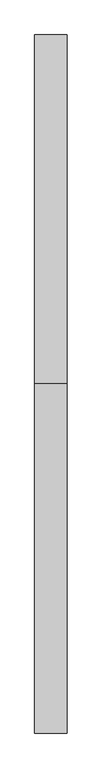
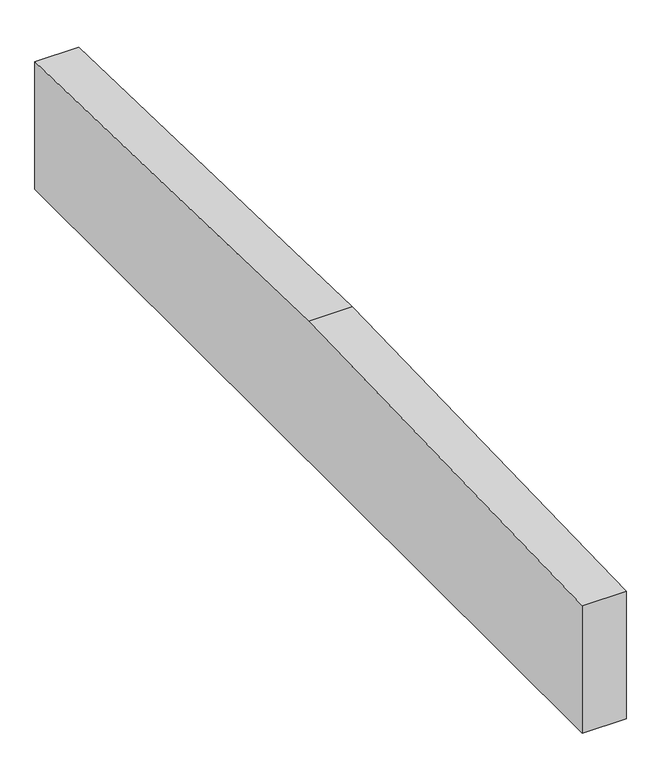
"""IFC4 building model written with IfcOpenShell, lengths in millimetres: proxy geometry, Mur garde grève C1 : Mur garde grève 1."""

from ifc_helpers import new_model, si_unit, frame, origin, place, context, project, spatial, polyline, outline, extrude, source, transform, mapped, element, save


def generic_models_bdcedec3(model_context):
    return source(origin(), model_context, "Body", "SweptSolid", [
        extrude(outline(polyline([(2700.0, 3950.0), (-2700.0, 3950.0), (-2700.0, 4718.0), (0.0, 4793.0), (2700.0, 4718.0), (2700.0, 3950.0)])), frame((6880.0, 0.0, 0.0), z_axis=(1.0, 0.0, 0.0), x_axis=(0.0, 1.0, 0.0)), (0.0, 0.0, 1.0), 250.0),
    ])


if __name__ == "__main__":
    model = new_model("IFC4")
    model_context = context("Model", 3, world=origin())
    ifc_project = project(units=[si_unit("LENGTHUNIT", "METRE", prefix="MILLI")], contexts=[model_context])
    site = spatial("IfcSite", under=ifc_project)
    building = spatial("IfcBuilding", under=site)
    placement = place(None, origin())
    generic_models_shape = generic_models_bdcedec3(model_context)
    element("IfcBuildingElementProxy", 1, Name="Mur garde grève C1 : Mur garde grève 1", ObjectType="Mur garde grève C1 : Mur garde grève 1", at=placement, inside=building, context=model_context, shape_type="MappedRepresentation", body=[
        mapped(generic_models_shape, transform((0.0, 0.0, 0.0), x_axis=(1.0, 0.0, 0.0), y_axis=(0.0, 1.0, 0.0), z_axis=(0.0, 0.0, 1.0))),
    ])
    save(model, "model.ifc")
